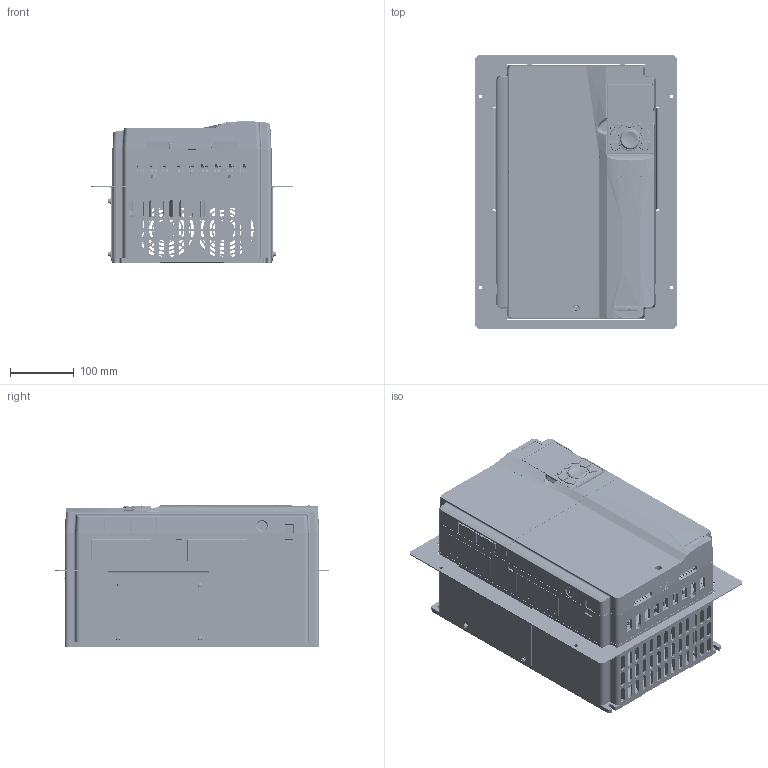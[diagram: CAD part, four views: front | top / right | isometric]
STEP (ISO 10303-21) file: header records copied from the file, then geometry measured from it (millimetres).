
FILE_DESCRIPTION((''),'2;1');
FILE_NAME('ST600-037G3_ASM','2019-07-04T',('Administrator'),(''),'PRO/ENGINEER BY PARAMETRIC TECHNOLOGY CORPORATION, 2010100','PRO/ENGINEER BY PARAMETRIC TECHNOLOGY CORPORATION, 2010100','');
FILE_SCHEMA(('CONFIG_CONTROL_DESIGN'));
Products named in the file (67): 80740138; 80740133; 80740134; 80740135; 80740188; 80740187; 80740183; 80740184; 80740019; 80310368; 0_BOTTOM_PLATE_ASM; FAN-CONN-1; FAN-CONN-2; FAN-CONN_ASM; 80383654; 80740167; 80740167SY; 80740168; 80740163; 80740162; 80880456; 80880456SY; 40810091_ASM; 80740164; 80740164SY; 36002-00065; 39009-00082; 17003-02723_20180403; E-MJ0204-100T; 17003-02723_20180403_ASM; KEY-LCD01-ZY-600-ES_ASM; KEY-LCD01-ZY-600_ASM; 17003-01917-1; 70610324; 36004-00115_OULU; TB2200-00-HOUSING; TB2200-00-TERMINAL; M6-LONMU-S10; M6NUT-FIXER; MANIFOLD_SOLID_BREP_493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
Assembly tree (131 placements, depth 6):
  ST600-037G3_ASM
    80740138
    80740133
    80740134
    80740135
    80740188
    80740187
    80740183
    80740184
    80740019  x4
    0_BOTTOM_PLATE_ASM
      80310368
    FAN-CONN_ASM  x2
      FAN-CONN-1
      FAN-CONN-2
    80383654
    80740167
    80740167SY
    80740168
    KEY-LCD01-ZY-600_ASM
      80740163
      40810091_ASM
        80740162
        80880456
        80880456SY
      80740164
      80740164SY
      KEY-LCD01-ZY-600-ES_ASM
        36002-00065
        39009-00082
        17003-02723_20180403_ASM
          17003-02723_20180403
          E-MJ0204-100T
    ST600-037G3-ES_ASM
      PCB_DRIVE_ASM
        17003-01917-1
        70610324
        36004-00115_OULU  x2
        TB2200-00-ASM_ASM
          TB2200-00-HOUSING
          TB2200-00-TERMINAL  x9
          M6-LONMU-S10  x9
          M6NUT-FIXER  x9
          M6X20_ASM  x9
            MANIFOLD_SOLID_BREP_493
            MANIFOLD_SOLID_BREP_494
            MANIFOLD_SOLID_BREP_495
          TB2200-00-LUCENCY
        TNR22-26-1P25-5_
        17003-01596-A1
      0_ST600_PCB_ASM
        PA1704_CT1_A2_ASM
          PA1704_CT1_A2
          E-DIN0309-5_08MM-TA
          E-DIN0302-5_08MM-TA
          E-HEAD0207-TC
          E-USB08-TF
          E-IDC34-ORM1
          E-MJ0204-R
          E-MJ0204-100T
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Bounding box: 316 x 430 x 222.37 mm (x, y, z)
Volume: 4026569.4 mm3; surface area: 3269937.4 mm2
Topology: 133 solids, 133 shells, 24713 faces, 68990 edges, 44936 vertices
Faces by surface type: plane 13991, cylinder 8221, cone 1068, torus 605, bspline 424, extrusion 262, sphere 142
Entity records: 719094 total; most frequent: CARTESIAN_POINT 164197, ORIENTED_EDGE 117286, DIRECTION 111457, EDGE_CURVE 58643, VECTOR 40285, LINE 40023, VERTEX_POINT 38198, AXIS2_PLACEMENT_3D 35586
